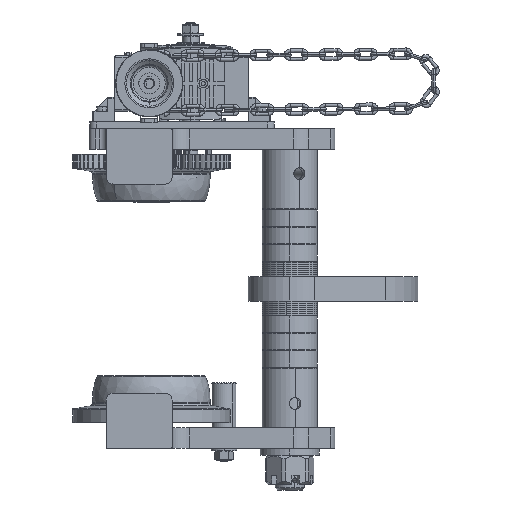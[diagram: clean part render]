
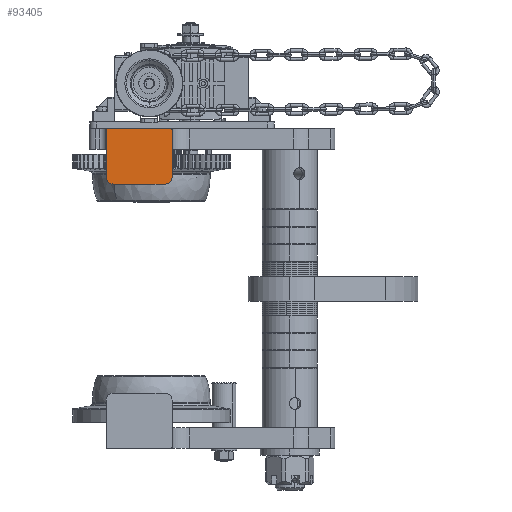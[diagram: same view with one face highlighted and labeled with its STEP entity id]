
A CAD part, left-side view. The second image highlights one B-rep face of the part: STEP entity #93405.
In plain terms, the highlighted planar face has unit normal (-1, 0, 0).
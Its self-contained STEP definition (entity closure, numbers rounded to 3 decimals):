
#1429 = VECTOR ( 'NONE', #21369, 1000. ) ;
#1496 = VECTOR ( 'NONE', #20551, 1000. ) ;
#1526 = DIRECTION ( 'NONE',  ( 0., 0., -1. ) ) ;
#3030 = EDGE_CURVE ( 'NONE', #45332, #33500, #28322, .T. ) ;
#5110 = EDGE_CURVE ( 'NONE', #45332, #38804, #53663, .T. ) ;
#5395 = EDGE_CURVE ( 'NONE', #82796, #70766, #33437, .T. ) ;
#9668 = CARTESIAN_POINT ( 'NONE',  ( -309.553, 143.612, 15. ) ) ;
#17795 = CARTESIAN_POINT ( 'NONE',  ( -309.553, 58.612, -65. ) ) ;
#18239 = DIRECTION ( 'NONE',  ( 0., 0., -1. ) ) ;
#19491 = VERTEX_POINT ( 'NONE', #50809 ) ;
#19587 = CARTESIAN_POINT ( 'NONE',  ( -309.553, 143.612, -55. ) ) ;
#19625 = ORIENTED_EDGE ( 'NONE', *, *, #79742, .F. ) ;
#20551 = DIRECTION ( 'NONE',  ( 0., 1., 0. ) ) ;
#20946 = VERTEX_POINT ( 'NONE', #19587 ) ;
#21369 = DIRECTION ( 'NONE',  ( 0., 0., 1. ) ) ;
#22166 = PLANE ( 'NONE',  #28161 ) ;
#23459 = DIRECTION ( 'NONE',  ( -1., 0., 0. ) ) ;
#28111 = VERTEX_POINT ( 'NONE', #64294 ) ;
#28161 = AXIS2_PLACEMENT_3D ( 'NONE', #74395, #90983, #82711 ) ;
#28322 = LINE ( 'NONE', #81570, #1496 ) ;
#29508 = ORIENTED_EDGE ( 'NONE', *, *, #70529, .F. ) ;
#31919 = ORIENTED_EDGE ( 'NONE', *, *, #36709, .T. ) ;
#32082 = DIRECTION ( 'NONE',  ( 0., -1., 0. ) ) ;
#32180 = DIRECTION ( 'NONE',  ( 0., 0., -1. ) ) ;
#32486 = ORIENTED_EDGE ( 'NONE', *, *, #81987, .T. ) ;
#32632 = VECTOR ( 'NONE', #32082, 1000. ) ;
#33437 = CIRCLE ( 'NONE', #66237, 2. ) ;
#33500 = VERTEX_POINT ( 'NONE', #52169 ) ;
#34697 = ORIENTED_EDGE ( 'NONE', *, *, #35176, .F. ) ;
#35176 = EDGE_CURVE ( 'NONE', #19491, #70766, #54560, .T. ) ;
#35507 = AXIS2_PLACEMENT_3D ( 'NONE', #55694, #92337, #1526 ) ;
#36709 = EDGE_CURVE ( 'NONE', #19491, #28111, #68790, .T. ) ;
#38320 = CARTESIAN_POINT ( 'NONE',  ( -309.553, 58.612, -55. ) ) ;
#38804 = VERTEX_POINT ( 'NONE', #64776 ) ;
#40185 = CARTESIAN_POINT ( 'NONE',  ( -309.553, 48.612, 15. ) ) ;
#45332 = VERTEX_POINT ( 'NONE', #17795 ) ;
#45575 = FACE_OUTER_BOUND ( 'NONE', #77827, .T. ) ;
#50809 = CARTESIAN_POINT ( 'NONE',  ( -309.553, 141.612, 15. ) ) ;
#52169 = CARTESIAN_POINT ( 'NONE',  ( -309.553, 133.612, -65. ) ) ;
#53593 = AXIS2_PLACEMENT_3D ( 'NONE', #38320, #89155, #74480 ) ;
#53663 = CIRCLE ( 'NONE', #53593, 10. ) ;
#54560 = LINE ( 'NONE', #9668, #32632 ) ;
#55473 = CARTESIAN_POINT ( 'NONE',  ( -309.553, 50.612, 15. ) ) ;
#55694 = CARTESIAN_POINT ( 'NONE',  ( -309.553, 133.612, -55. ) ) ;
#55812 = LINE ( 'NONE', #40185, #94647 ) ;
#56275 = AXIS2_PLACEMENT_3D ( 'NONE', #72216, #80038, #65376 ) ;
#64294 = CARTESIAN_POINT ( 'NONE',  ( -309.553, 143.612, 13. ) ) ;
#64776 = CARTESIAN_POINT ( 'NONE',  ( -309.553, 48.612, -55. ) ) ;
#65376 = DIRECTION ( 'NONE',  ( 0., 0., -1. ) ) ;
#66237 = AXIS2_PLACEMENT_3D ( 'NONE', #66570, #23459, #32180 ) ;
#66288 = LINE ( 'NONE', #81434, #1429 ) ;
#66570 = CARTESIAN_POINT ( 'NONE',  ( -309.553, 50.612, 13. ) ) ;
#68790 = CIRCLE ( 'NONE', #56275, 2. ) ;
#70529 = EDGE_CURVE ( 'NONE', #20946, #28111, #66288, .T. ) ;
#70766 = VERTEX_POINT ( 'NONE', #55473 ) ;
#72216 = CARTESIAN_POINT ( 'NONE',  ( -309.553, 141.612, 13. ) ) ;
#73113 = ORIENTED_EDGE ( 'NONE', *, *, #5110, .T. ) ;
#74395 = CARTESIAN_POINT ( 'NONE',  ( -309.553, 48.612, 15. ) ) ;
#74480 = DIRECTION ( 'NONE',  ( 0., 0., -1. ) ) ;
#77827 = EDGE_LOOP ( 'NONE', ( #19625, #90280, #34697, #31919, #29508, #32486, #89474, #73113 ) ) ;
#78435 = CARTESIAN_POINT ( 'NONE',  ( -309.553, 48.612, 13. ) ) ;
#79742 = EDGE_CURVE ( 'NONE', #82796, #38804, #55812, .T. ) ;
#80038 = DIRECTION ( 'NONE',  ( -1., 0., 0. ) ) ;
#81434 = CARTESIAN_POINT ( 'NONE',  ( -309.553, 143.612, 15. ) ) ;
#81570 = CARTESIAN_POINT ( 'NONE',  ( -309.553, 143.612, -65. ) ) ;
#81987 = EDGE_CURVE ( 'NONE', #20946, #33500, #83859, .T. ) ;
#82711 = DIRECTION ( 'NONE',  ( 0., 0., -1. ) ) ;
#82796 = VERTEX_POINT ( 'NONE', #78435 ) ;
#83859 = CIRCLE ( 'NONE', #35507, 10. ) ;
#89155 = DIRECTION ( 'NONE',  ( -1., 0., 0. ) ) ;
#89474 = ORIENTED_EDGE ( 'NONE', *, *, #3030, .F. ) ;
#90280 = ORIENTED_EDGE ( 'NONE', *, *, #5395, .T. ) ;
#90983 = DIRECTION ( 'NONE',  ( 1., 0., 0. ) ) ;
#92337 = DIRECTION ( 'NONE',  ( -1., 0., 0. ) ) ;
#93405 = ADVANCED_FACE ( 'NONE', ( #45575 ), #22166, .F. ) ;
#94647 = VECTOR ( 'NONE', #18239, 1000. ) ;
